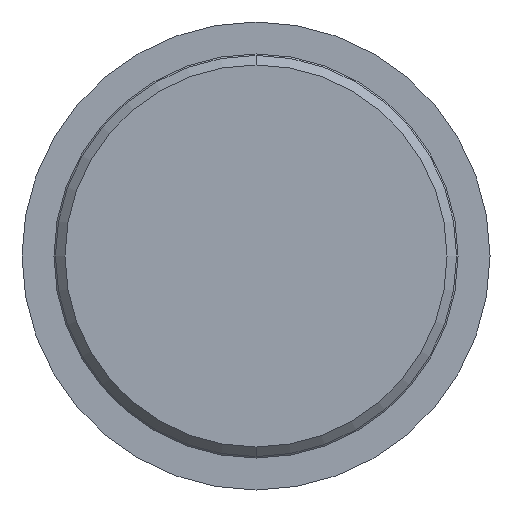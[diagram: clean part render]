
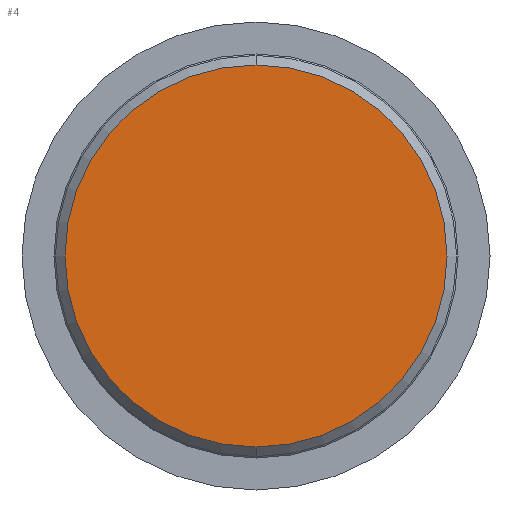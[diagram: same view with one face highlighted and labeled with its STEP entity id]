
A CAD part, front view. The second image highlights one B-rep face of the part: STEP entity #4.
In plain terms, the highlighted planar face has unit normal (0, -1, 0).
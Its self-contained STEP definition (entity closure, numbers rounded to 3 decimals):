
#4 = ADVANCED_FACE ( 'NONE', ( #344 ), #59, .F. ) ;
#28 = CARTESIAN_POINT ( 'NONE',  ( 0., 0., 0. ) ) ;
#59 = PLANE ( 'NONE',  #142 ) ;
#119 = ORIENTED_EDGE ( 'NONE', *, *, #653, .F. ) ;
#142 = AXIS2_PLACEMENT_3D ( 'NONE', #409, #333, #577 ) ;
#151 = AXIS2_PLACEMENT_3D ( 'NONE', #28, #425, #364 ) ;
#199 = AXIS2_PLACEMENT_3D ( 'NONE', #235, #537, #579 ) ;
#206 = CARTESIAN_POINT ( 'NONE',  ( 0., 0., -20. ) ) ;
#228 = VERTEX_POINT ( 'NONE', #306 ) ;
#235 = CARTESIAN_POINT ( 'NONE',  ( 0., 0., 0. ) ) ;
#243 = CIRCLE ( 'NONE', #151, 20. ) ;
#262 = CIRCLE ( 'NONE', #199, 20. ) ;
#306 = CARTESIAN_POINT ( 'NONE',  ( 0., 0., 20. ) ) ;
#333 = DIRECTION ( 'NONE',  ( 0., 1., 0. ) ) ;
#344 = FACE_OUTER_BOUND ( 'NONE', #540, .T. ) ;
#364 = DIRECTION ( 'NONE',  ( 0., 0., 1. ) ) ;
#409 = CARTESIAN_POINT ( 'NONE',  ( 20., 0., 0. ) ) ;
#413 = ORIENTED_EDGE ( 'NONE', *, *, #424, .F. ) ;
#424 = EDGE_CURVE ( 'NONE', #228, #732, #262, .T. ) ;
#425 = DIRECTION ( 'NONE',  ( 0., 1., 0. ) ) ;
#537 = DIRECTION ( 'NONE',  ( 0., 1., 0. ) ) ;
#540 = EDGE_LOOP ( 'NONE', ( #413, #119 ) ) ;
#577 = DIRECTION ( 'NONE',  ( 0., 0., 1. ) ) ;
#579 = DIRECTION ( 'NONE',  ( 0., 0., 1. ) ) ;
#653 = EDGE_CURVE ( 'NONE', #732, #228, #243, .T. ) ;
#732 = VERTEX_POINT ( 'NONE', #206 ) ;
